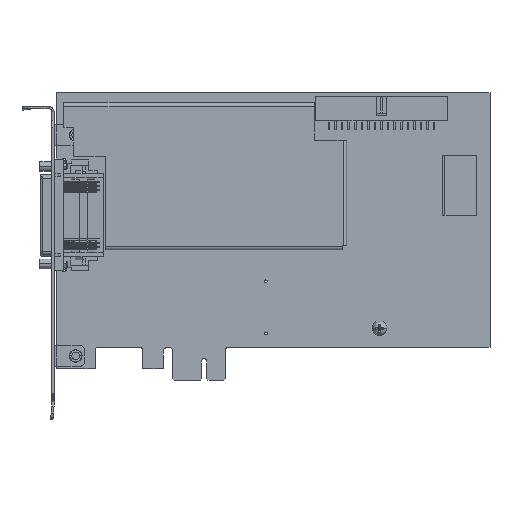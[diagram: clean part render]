
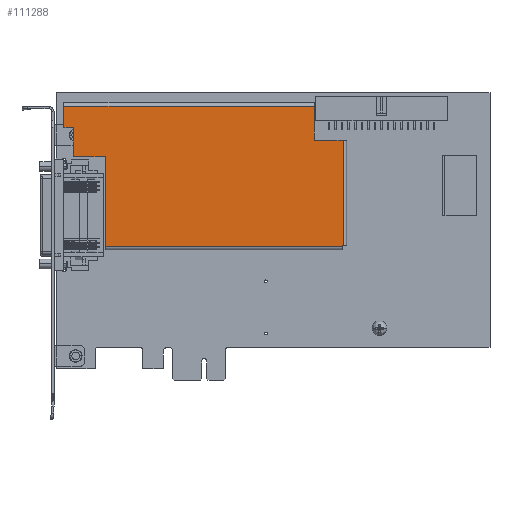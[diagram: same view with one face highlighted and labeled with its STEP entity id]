
A CAD part, top view. The second image highlights one B-rep face of the part: STEP entity #111288.
In plain terms, the highlighted planar face has unit normal (0, 0, 1).
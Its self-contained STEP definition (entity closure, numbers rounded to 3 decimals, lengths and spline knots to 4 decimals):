
#40071=DIRECTION('',(0.,1.,0.));
#40072=VECTOR('',#40071,0.01);
#40073=CARTESIAN_POINT('',(4.0603,1.665,0.377));
#40074=LINE('',#40073,#40072);
#40075=DIRECTION('',(0.,1.,0.));
#40076=VECTOR('',#40075,1.37);
#40077=CARTESIAN_POINT('',(0.4503,1.6651,0.377));
#40078=LINE('',#40077,#40076);
#40079=DIRECTION('',(1.,0.,0.));
#40080=VECTOR('',#40079,0.487);
#40081=CARTESIAN_POINT('',(-0.0367,3.0351,0.377));
#40082=LINE('',#40081,#40080);
#40083=DIRECTION('',(0.,1.,0.));
#40084=VECTOR('',#40083,0.441);
#40085=CARTESIAN_POINT('',(-0.0367,3.0351,0.377));
#40086=LINE('',#40085,#40084);
#40087=DIRECTION('',(1.,0.,0.));
#40088=VECTOR('',#40087,0.143);
#40089=CARTESIAN_POINT('',(-0.1797,3.4761,0.377));
#40090=LINE('',#40089,#40088);
#40091=DIRECTION('',(0.,-1.,0.));
#40092=VECTOR('',#40091,0.324);
#40093=CARTESIAN_POINT('',(-0.1797,3.8001,0.377));
#40094=LINE('',#40093,#40092);
#40095=DIRECTION('',(0.,-1.,0.));
#40096=VECTOR('',#40095,0.517);
#40097=CARTESIAN_POINT('',(3.6303,3.8,0.377));
#40098=LINE('',#40097,#40096);
#40099=DIRECTION('',(1.,0.,0.));
#40100=VECTOR('',#40099,0.44);
#40101=CARTESIAN_POINT('',(3.6303,3.283,0.377));
#40102=LINE('',#40101,#40100);
#40103=DIRECTION('',(-1.,0.,0.));
#40104=VECTOR('',#40103,0.01);
#40105=CARTESIAN_POINT('',(4.0703,1.675,0.377));
#40106=LINE('',#40105,#40104);
#40116=DIRECTION('',(1.,0.,0.));
#40117=VECTOR('',#40116,3.61);
#40118=CARTESIAN_POINT('',(0.4503,1.6651,0.377));
#40119=LINE('',#40118,#40117);
#40316=DIRECTION('',(0.,1.,0.));
#40317=VECTOR('',#40316,1.608);
#40318=CARTESIAN_POINT('',(4.0703,1.675,0.377));
#40319=LINE('',#40318,#40317);
#40346=DIRECTION('',(-1.,0.,0.));
#40347=VECTOR('',#40346,3.81);
#40348=CARTESIAN_POINT('',(3.6303,3.8,0.377));
#40349=LINE('',#40348,#40347);
#53697=CARTESIAN_POINT('',(3.6303,3.283,0.377));
#53699=VERTEX_POINT('',#53697);
#53753=CARTESIAN_POINT('',(-0.1797,3.8001,0.377));
#53754=VERTEX_POINT('',#53753);
#53755=CARTESIAN_POINT('',(3.6303,3.8,0.377));
#53756=VERTEX_POINT('',#53755);
#53761=CARTESIAN_POINT('',(4.0703,3.283,0.377));
#53762=VERTEX_POINT('',#53761);
#53763=CARTESIAN_POINT('',(4.0703,1.675,0.377));
#53764=VERTEX_POINT('',#53763);
#53771=CARTESIAN_POINT('',(4.0603,1.665,0.377));
#53772=VERTEX_POINT('',#53771);
#53773=CARTESIAN_POINT('',(0.4503,1.6651,0.377));
#53774=VERTEX_POINT('',#53773);
#53775=CARTESIAN_POINT('',(0.4503,3.0351,0.377));
#53776=VERTEX_POINT('',#53775);
#53777=CARTESIAN_POINT('',(4.0603,1.675,0.377));
#53779=VERTEX_POINT('',#53777);
#53781=CARTESIAN_POINT('',(-0.0367,3.0351,0.377));
#53782=CARTESIAN_POINT('',(-0.0367,3.4761,0.377));
#53783=VERTEX_POINT('',#53781);
#53784=VERTEX_POINT('',#53782);
#53789=CARTESIAN_POINT('',(-0.1797,3.4761,0.377));
#53790=VERTEX_POINT('',#53789);
#111258=CARTESIAN_POINT('',(2.8003,2.31,0.377));
#111259=DIRECTION('',(0.,0.,1.));
#111260=DIRECTION('',(-1.,0.,0.));
#111261=AXIS2_PLACEMENT_3D('',#111258,#111259,#111260);
#111262=PLANE('',#111261);
#111263=ORIENTED_EDGE('',*,*,#111248,.F.);
#111265=ORIENTED_EDGE('',*,*,#111264,.F.);
#111267=ORIENTED_EDGE('',*,*,#111266,.T.);
#111269=ORIENTED_EDGE('',*,*,#111268,.F.);
#111271=ORIENTED_EDGE('',*,*,#111270,.T.);
#111273=ORIENTED_EDGE('',*,*,#111272,.F.);
#111275=ORIENTED_EDGE('',*,*,#111274,.F.);
#111277=ORIENTED_EDGE('',*,*,#111276,.F.);
#111279=ORIENTED_EDGE('',*,*,#111278,.T.);
#111281=ORIENTED_EDGE('',*,*,#111280,.T.);
#111283=ORIENTED_EDGE('',*,*,#111282,.F.);
#111285=ORIENTED_EDGE('',*,*,#111284,.T.);
#111286=EDGE_LOOP('',(#111263,#111265,#111267,#111269,#111271,#111273,#111275,
#111277,#111279,#111281,#111283,#111285));
#111287=FACE_OUTER_BOUND('',#111286,.F.);
#111288=ADVANCED_FACE('',(#111287),#111262,.T.);
#111248=EDGE_CURVE('',#53772,#53779,#40074,.T.);
#111264=EDGE_CURVE('',#53774,#53772,#40119,.T.);
#111266=EDGE_CURVE('',#53774,#53776,#40078,.T.);
#111268=EDGE_CURVE('',#53783,#53776,#40082,.T.);
#111270=EDGE_CURVE('',#53783,#53784,#40086,.T.);
#111272=EDGE_CURVE('',#53790,#53784,#40090,.T.);
#111274=EDGE_CURVE('',#53754,#53790,#40094,.T.);
#111276=EDGE_CURVE('',#53756,#53754,#40349,.T.);
#111278=EDGE_CURVE('',#53756,#53699,#40098,.T.);
#111280=EDGE_CURVE('',#53699,#53762,#40102,.T.);
#111282=EDGE_CURVE('',#53764,#53762,#40319,.T.);
#111284=EDGE_CURVE('',#53764,#53779,#40106,.T.);
